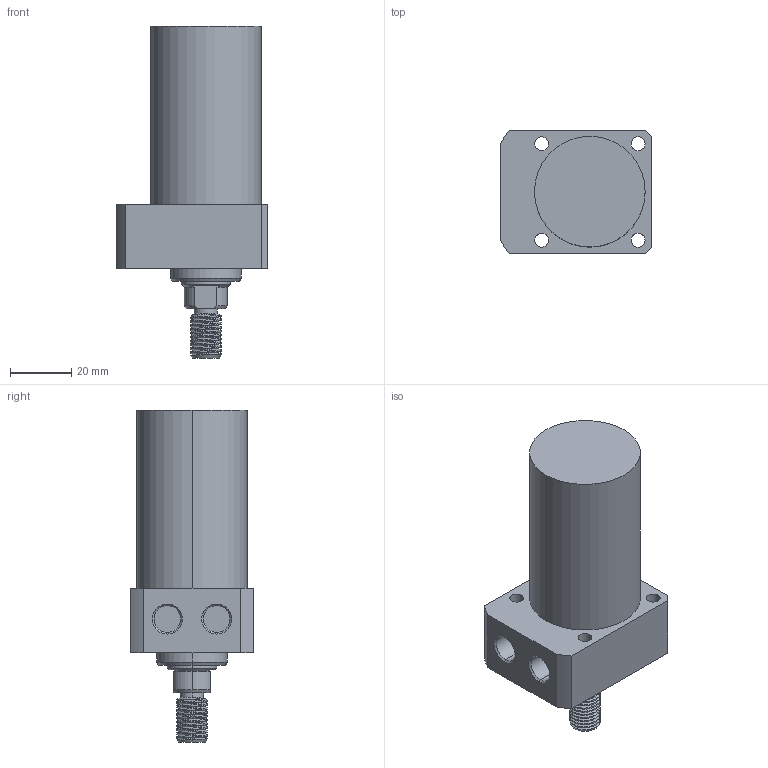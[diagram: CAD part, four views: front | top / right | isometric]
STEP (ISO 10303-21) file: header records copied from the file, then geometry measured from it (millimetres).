
FILE_DESCRIPTION (( 'STEP AP214' ), '1' );
FILE_NAME ('CLLR-036CT-050.STEP', '2020-01-08T10:25:11', ( 'Windows' ), ( 'Microsoft' ), 'SwSTEP 2.0', 'SolidWorks 2015', '' );
FILE_SCHEMA (( 'AUTOMOTIVE_DESIGN' ));
Length unit declared in the file: millimetre
Products named in the file (1): CLLR-036CT-050
Bounding box: 49 x 40 x 108 mm (x, y, z)
Volume: 101064.2 mm3; surface area: 17215.2 mm2
Topology: 1 solids, 1 shells, 89 faces, 223 edges, 144 vertices
Faces by surface type: cylinder 51, plane 21, cone 15, bspline 2
Entity records: 3969 total; most frequent: CARTESIAN_POINT 1835, ORIENTED_EDGE 446, DIRECTION 419, EDGE_CURVE 223, AXIS2_PLACEMENT_3D 164, VERTEX_POINT 144, EDGE_LOOP 105, LINE 91
